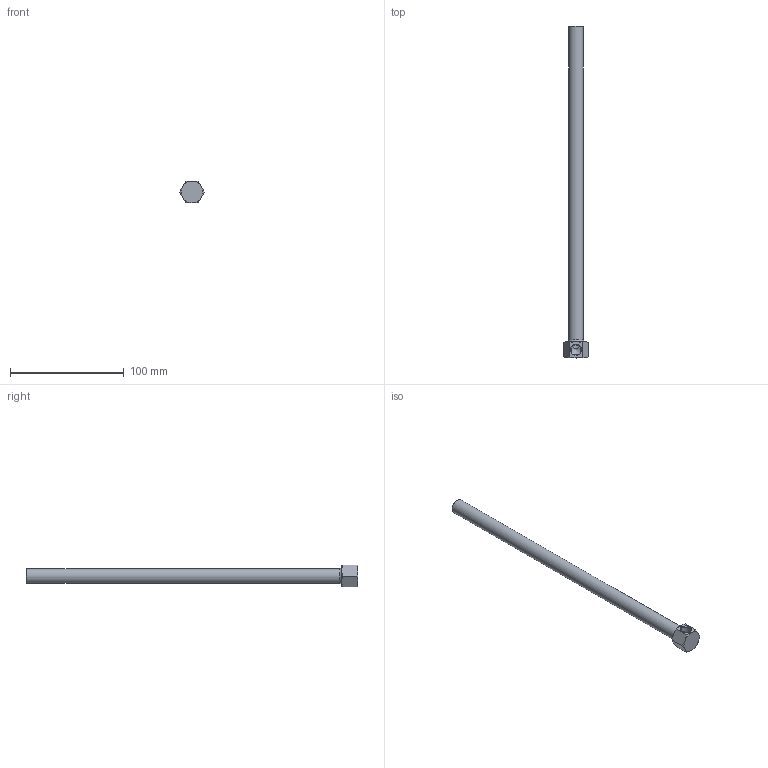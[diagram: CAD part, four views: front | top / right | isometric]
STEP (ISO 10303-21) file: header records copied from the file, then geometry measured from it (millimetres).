
FILE_DESCRIPTION(/* description */ (''),/* implementation_level */ '2;1');
FILE_NAME(/* name */ 'C:/Users/drich/Desktop/1814B-11-1_2 v1.step',/* time_stamp */ '2019-12-29T15:31:00-06:00',/* author */ (''),/* organization */ (''),/* preprocessor_version */ 'ST-DEVELOPER v18',/* originating_system */ 'Autodesk Translation Framework v8.12.0.6',/* authorisation */ '');
FILE_SCHEMA (('AUTOMOTIVE_DESIGN { 1 0 10303 214 3 1 1 }'));
Length unit declared in the file: inch
Products named in the file (1): 1814B-11-1_2
Bounding box: 22 x 292.1 x 19.05 mm (x, y, z)
Volume: 23972.5 mm3; surface area: 20791.4 mm2
Topology: 1 solids, 1 shells, 22 faces, 57 edges, 37 vertices
Faces by surface type: plane 9, cone 8, cylinder 4, torus 1
Full cylindrical faces by diameter (mm): 8.707 x1, 8.712 x1, 13.032 x1
Entity records: 801 total; most frequent: CARTESIAN_POINT 256, ORIENTED_EDGE 112, DIRECTION 100, EDGE_CURVE 56, AXIS2_PLACEMENT_3D 42, VERTEX_POINT 37, EDGE_LOOP 25, FACE_OUTER_BOUND 22
